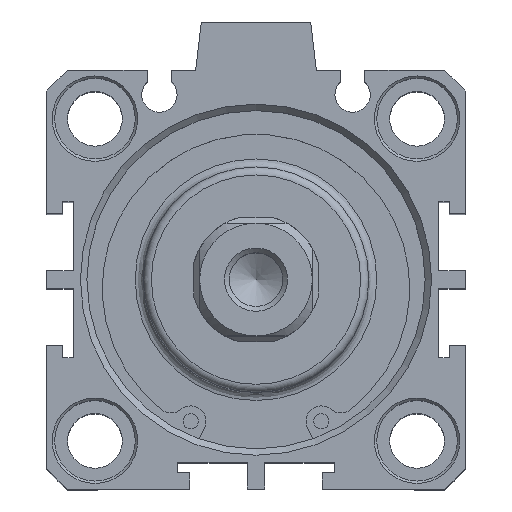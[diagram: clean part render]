
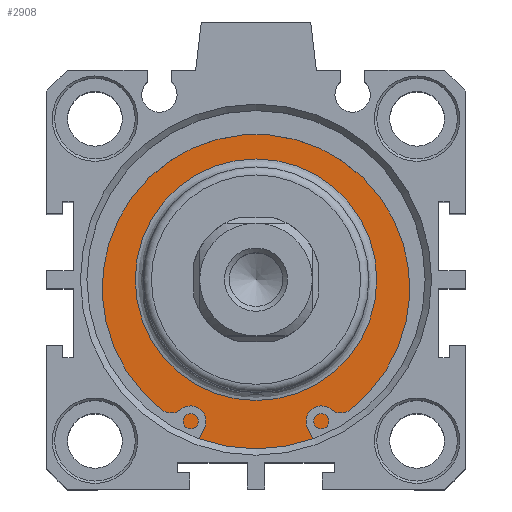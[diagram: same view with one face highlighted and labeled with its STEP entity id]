
A CAD part, top view. The second image highlights one B-rep face of the part: STEP entity #2908.
In plain terms, the highlighted planar face has unit normal (0, 0, 1).
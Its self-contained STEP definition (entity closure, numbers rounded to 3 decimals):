
#2857=CARTESIAN_POINT('',(0.598,16.555,62.4));
#2858=VERTEX_POINT('',#2857);
#2859=CARTESIAN_POINT('',(0.598,1.555,62.4));
#2860=DIRECTION('',(0.0,0.0,1.0));
#2861=DIRECTION('',(0.0,-1.0,0.0));
#2862=AXIS2_PLACEMENT_3D('',#2859,#2860,#2861);
#2863=CIRCLE('',#2862,15.);
#2864=EDGE_CURVE('',#2858,#2858,#2863,.T.);
#2889=CARTESIAN_POINT('',(0.598,19.055,62.4));
#2890=DIRECTION('',(0.0,0.0,1.0));
#2891=DIRECTION('',(1.0,0.0,0.0));
#2892=AXIS2_PLACEMENT_3D('',#2889,#2890,#2891);
#2893=PLANE('',#2892);
#2894=CARTESIAN_POINT('',(0.598,22.555,62.4));
#2895=VERTEX_POINT('',#2894);
#2896=CARTESIAN_POINT('',(0.598,1.555,62.4));
#2897=DIRECTION('',(0.0,0.0,-1.0));
#2898=DIRECTION('',(0.0,1.0,0.0));
#2899=AXIS2_PLACEMENT_3D('',#2896,#2897,#2898);
#2900=CIRCLE('',#2899,21.);
#2901=EDGE_CURVE('',#2895,#2895,#2900,.T.);
#2902=ORIENTED_EDGE('',*,*,#2901,.F.);
#2903=EDGE_LOOP('',(#2902));
#2904=FACE_OUTER_BOUND('',#2903,.T.);
#2905=ORIENTED_EDGE('',*,*,#2864,.F.);
#2906=EDGE_LOOP('',(#2905));
#2907=FACE_BOUND('',#2906,.T.);
#2908=ADVANCED_FACE('',(#2904,#2907),#2893,.T.);
